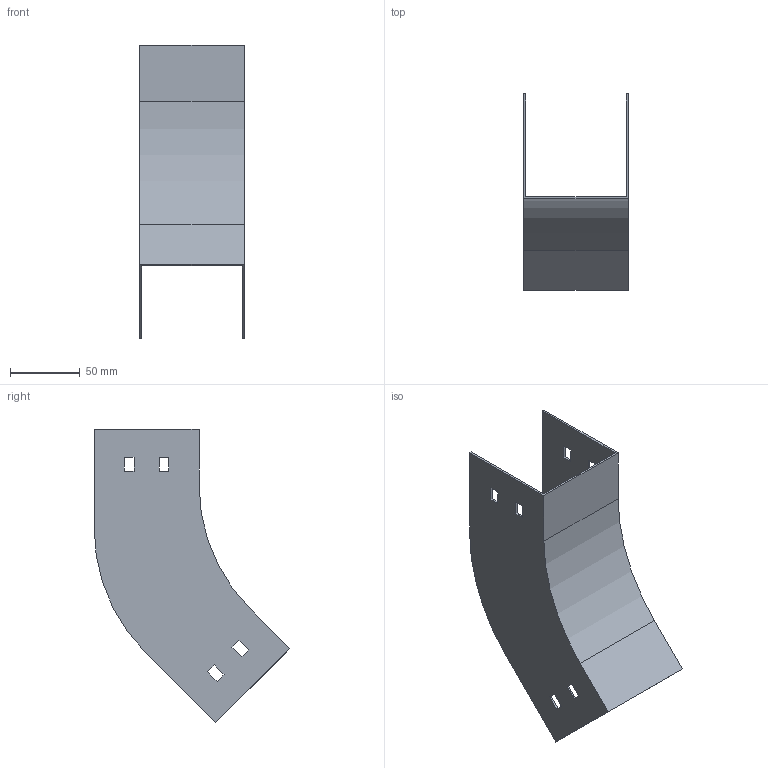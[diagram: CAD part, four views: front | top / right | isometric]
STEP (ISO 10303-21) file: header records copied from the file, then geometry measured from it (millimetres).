
FILE_DESCRIPTION (( 'STEP AP214' ), '1' );
FILE_NAME ('D4_077.step', '2025-07-16T09:06:42', ( '' ), ( '' ), 'SwSTEP 2.0', 'SolidWorks 2023', '' );
FILE_SCHEMA (( 'AUTOMOTIVE_DESIGN' ));
Length unit declared in the file: millimetre
Products named in the file (1): D4_077
Bounding box: 75 x 139.9 x 209.71 mm (x, y, z)
Volume: 66755.9 mm3; surface area: 90801 mm2
Topology: 1 solids, 1 shells, 50 faces, 144 edges, 96 vertices
Faces by surface type: plane 46, cylinder 4
Entity records: 1671 total; most frequent: CARTESIAN_POINT 291, ORIENTED_EDGE 288, DIRECTION 254, EDGE_CURVE 144, LINE 136, VECTOR 136, VERTEX_POINT 96, EDGE_LOOP 66
